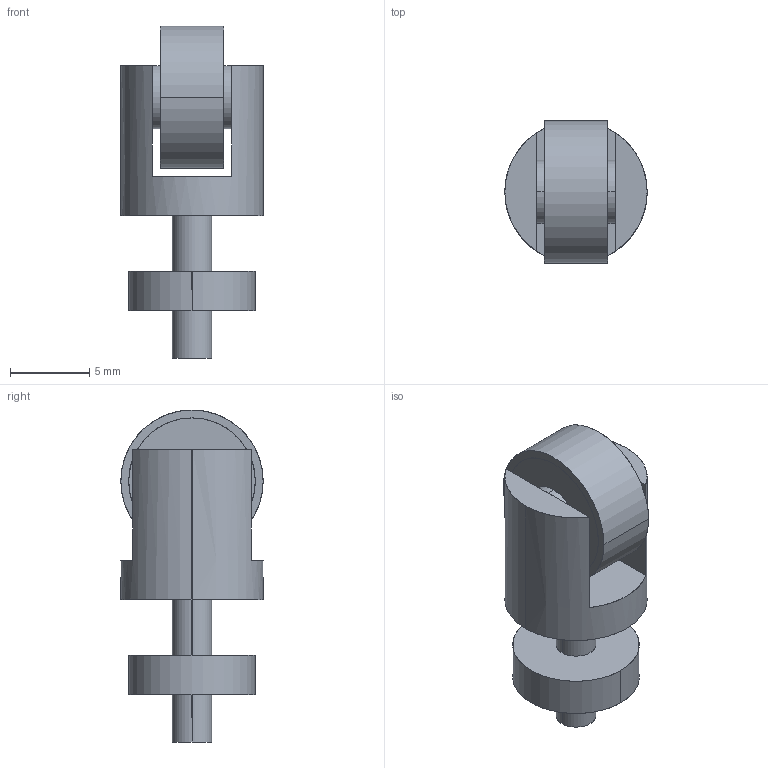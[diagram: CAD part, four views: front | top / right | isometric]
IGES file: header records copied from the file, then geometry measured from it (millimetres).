
Start section: SolidWorks IGES file using analytic representation for surfaces
Global section: file name: C:\Users\panasonic\Desktop\catalog\3d\tr-s601\tr-s601.IGS; native system: SolidWorks 2014; preprocessor: SolidWorks 2014; author: C0909; date: 161007.160211; units: millimetre
Bounding box: 9 x 9 x 21 mm (x, y, z)
Surface area: 1074 mm2 (no closed solid volume)
Topology: 0 solids, 0 shells, 31 faces, 672 edges, 670 vertices
Faces by surface type: revolution 18, bspline 13
